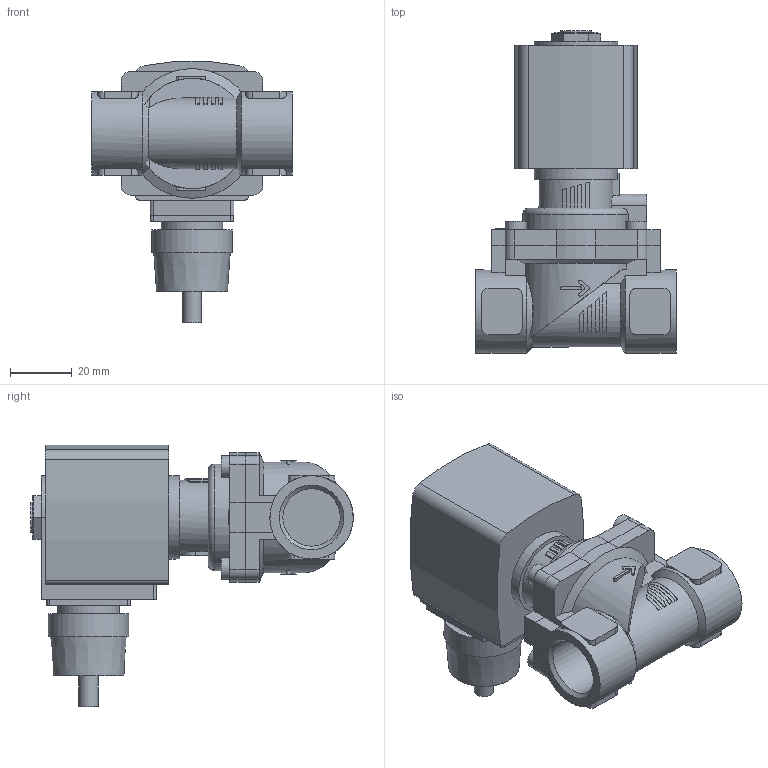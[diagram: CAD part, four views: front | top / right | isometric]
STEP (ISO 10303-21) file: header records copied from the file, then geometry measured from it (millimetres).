
FILE_DESCRIPTION(/* description */ ('STEP AP214'),/* implementation_level */ '2;1');
FILE_NAME(/* name */ '6281-372920-2_2-Way_Solenoid_Valve__Servo-assisted__General_Purpose',/* time_stamp */ '2024-08-16T21:32:09+02:00',/* author */ ('License CC BY-ND 4.0'),/* organization */ ('CADENAS'),/* preprocessor_version */ 'ST-DEVELOPER v19.3',/* originating_system */ 'PARTsolutions',/* authorisation */ ' ');
FILE_SCHEMA (('AUTOMOTIVE_DESIGN {1 0 10303 214 3 1 1}'));
Length unit declared in the file: millimetre
Products named in the file (4): 6281-372920-2/2-Way Solenoid Valve, Servo-assisted, General Purpose; 5281ev130MS2/2-Wege-Magnetventil mit Servomembran-Deckel 42 ; 6213-13G1/2MS-Gehaeuse-lang; AC10ex-6ATEXKabelPlan-Coil
Assembly tree (3 placements, depth 2):
  6281-372920-2/2-Way Solenoid Valve, Servo-assisted, General Purpose
    5281ev130MS2/2-Wege-Magnetventil mit Servomembran-Deckel 42 
    6213-13G1/2MS-Gehaeuse-lang
    AC10ex-6ATEXKabelPlan-Coil
Bounding box: 65 x 104.5 x 84.63 mm (x, y, z)
Volume: 152191.4 mm3; surface area: 33216.4 mm2
Topology: 3 solids, 3 shells, 300 faces, 770 edges, 503 vertices
Faces by surface type: plane 191, cylinder 95, cone 13, torus 1
Full cylindrical faces by diameter (mm): 6.2 x1, 7 x4, 9.74 x1, 18.631 x2, 20 x1, 26 x1, 27 x3
Entity records: 10129 total; most frequent: CARTESIAN_POINT 1797, DIRECTION 1544, ORIENTED_EDGE 1494, EDGE_CURVE 747, AXIS2_PLACEMENT_3D 558, VERTEX_POINT 497, LINE 428, VECTOR 428
